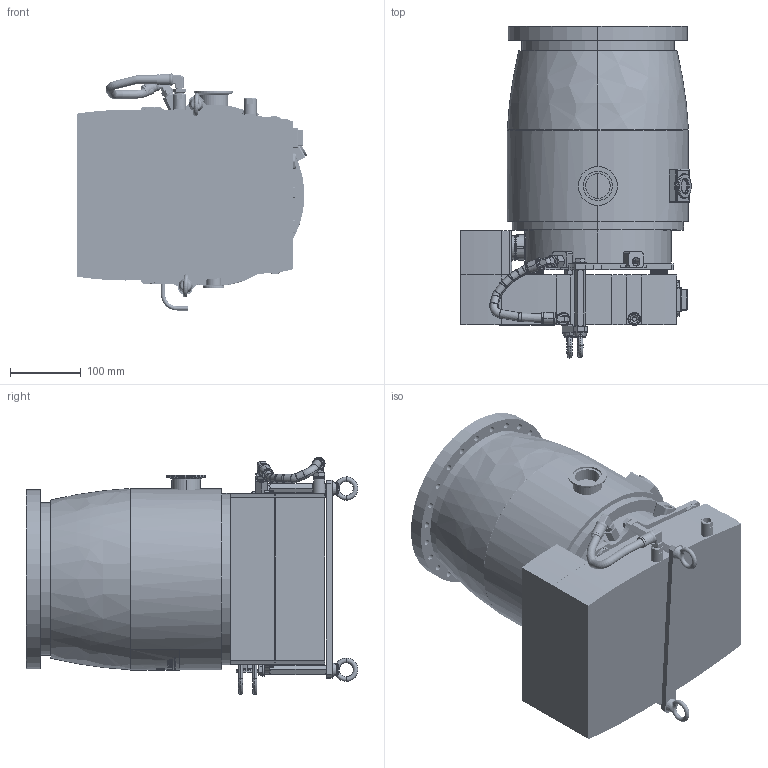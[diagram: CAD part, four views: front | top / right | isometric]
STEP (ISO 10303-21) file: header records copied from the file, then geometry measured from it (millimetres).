
FILE_DESCRIPTION((''),'2;1');
FILE_NAME('ATH1600M-PY52210A_ASM','2008-06-20T',('NVARENNES'),(''),'PRO/ENGINEER BY PARAMETRIC TECHNOLOGY CORPORATION, 2008010','PRO/ENGINEER BY PARAMETRIC TECHNOLOGY CORPORATION, 2008010','');
FILE_SCHEMA(('CONFIG_CONTROL_DESIGN'));
Length unit declared in the file: millimetre
Products named in the file (6): ENV-ATH1600M-P2522100; ENV-OBC-V4-COQUILLE; ENV-LOT-FIXATION-OBC-V4; RAC-M-F-BN-1-4-NPT-12-IO-LG; TUYAU-ATH1600M-OBCV4-2; ATH1600M-PY52210A_ASM
Assembly tree (5 placements, depth 2):
  ATH1600M-PY52210A_ASM
    ENV-ATH1600M-P2522100
    ENV-OBC-V4-COQUILLE
    ENV-LOT-FIXATION-OBC-V4
    RAC-M-F-BN-1-4-NPT-12-IO-LG
    TUYAU-ATH1600M-OBCV4-2
Bounding box: 325.39 x 468.52 x 334.85 mm (x, y, z)
Volume: 22170435.4 mm3; surface area: 922192 mm2
Topology: 20 solids, 143 shells, 4428 faces, 10269 edges, 6306 vertices
Faces by surface type: cylinder 1918, plane 1307, cone 725, bspline 188, torus 162, sphere 126, extrusion 2
Entity records: 138319 total; most frequent: CARTESIAN_POINT 36572, DIRECTION 21345, ORIENTED_EDGE 20282, EDGE_CURVE 10141, AXIS2_PLACEMENT_3D 8703, VERTEX_POINT 6306, EDGE_LOOP 5109, CIRCLE 4450
